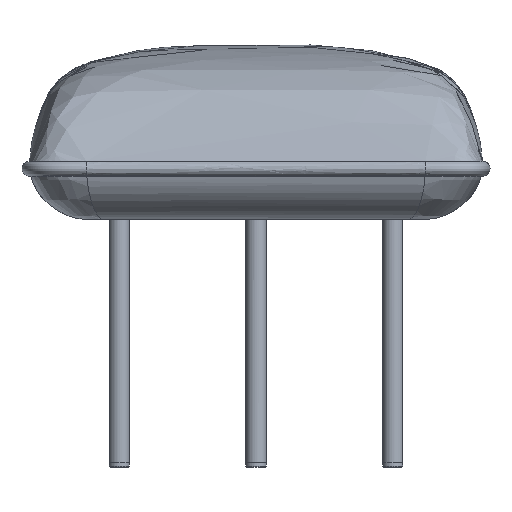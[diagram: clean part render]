
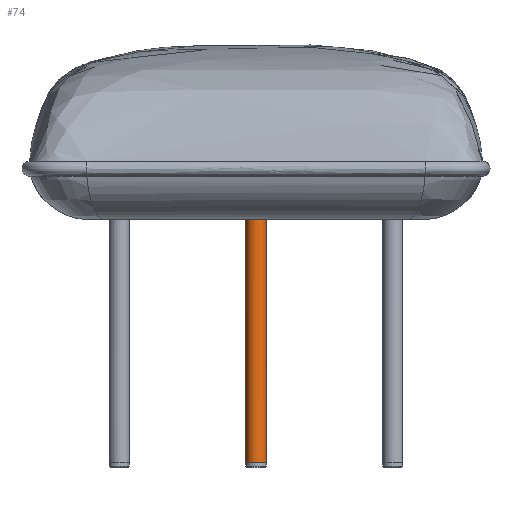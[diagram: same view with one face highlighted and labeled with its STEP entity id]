
A CAD part, left-side view. The second image highlights one B-rep face of the part: STEP entity #74.
In plain terms, the highlighted free-form (B-spline) face has degree [2, 1] with [5, 2] control points.
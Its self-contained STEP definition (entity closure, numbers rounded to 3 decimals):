
#74=ADVANCED_FACE('',(#158),#2180,.T.);
#158=FACE_OUTER_BOUND('',#242,.T.);
#242=EDGE_LOOP('',(#345,#346,#347,#348));
#345=ORIENTED_EDGE('',*,*,#1765,.F.);
#346=ORIENTED_EDGE('',*,*,#1768,.F.);
#347=ORIENTED_EDGE('',*,*,#1764,.F.);
#348=ORIENTED_EDGE('',*,*,#1767,.F.);
#653=B_SPLINE_CURVE_WITH_KNOTS('',1,(#2515,#2516),.UNSPECIFIED.,.F.,.F.,
(2,2),(57.,322.),.UNSPECIFIED.);
#655=B_SPLINE_CURVE_WITH_KNOTS('',1,(#2521,#2522),.UNSPECIFIED.,.F.,.F.,
(2,2),(-322.,-57.),.UNSPECIFIED.);
#657=B_SPLINE_CURVE_WITH_KNOTS('',1,(#2525,#2526),.UNSPECIFIED.,.F.,.F.,
(2,2),(-69.115,-34.558),.UNSPECIFIED.);
#658=B_SPLINE_CURVE_WITH_KNOTS('',1,(#2527,#2528),.UNSPECIFIED.,.F.,.F.,
(2,2),(-322.,-57.),.UNSPECIFIED.);
#659=B_SPLINE_CURVE_WITH_KNOTS('',1,(#2529,#2530),.UNSPECIFIED.,.F.,.F.,
(2,2),(34.558,69.115),.UNSPECIFIED.);
#660=B_SPLINE_CURVE_WITH_KNOTS('',1,(#2531,#2532),.UNSPECIFIED.,.F.,.F.,
(2,2),(57.,322.),.UNSPECIFIED.);
#974=PCURVE('',#2231,#1294);
#975=PCURVE('',#2232,#1295);
#977=PCURVE('',#2179,#1297);
#979=PCURVE('',#2179,#1299);
#981=PCURVE('',#2180,#1301);
#982=PCURVE('',#2180,#1302);
#983=PCURVE('',#2180,#1303);
#984=PCURVE('',#2180,#1304);
#1294=DEFINITIONAL_REPRESENTATION('',(#1930),#13053);
#1295=DEFINITIONAL_REPRESENTATION('',(#1932),#13053);
#1297=DEFINITIONAL_REPRESENTATION('',(#653),#13053);
#1299=DEFINITIONAL_REPRESENTATION('',(#655),#13053);
#1301=DEFINITIONAL_REPRESENTATION('',(#657),#13053);
#1302=DEFINITIONAL_REPRESENTATION('',(#658),#13053);
#1303=DEFINITIONAL_REPRESENTATION('',(#659),#13053);
#1304=DEFINITIONAL_REPRESENTATION('',(#660),#13053);
#1604=SURFACE_CURVE('',#1929,(#974,#983),.PCURVE_S1.);
#1605=SURFACE_CURVE('',#1931,(#975,#981),.PCURVE_S1.);
#1607=SURFACE_CURVE('',#1935,(#977,#984),.PCURVE_S1.);
#1608=SURFACE_CURVE('',#1936,(#979,#982),.PCURVE_S1.);
#1764=EDGE_CURVE('',#2086,#2083,#1604,.T.);
#1765=EDGE_CURVE('',#2084,#2085,#1605,.T.);
#1767=EDGE_CURVE('',#2085,#2086,#1607,.T.);
#1768=EDGE_CURVE('',#2083,#2084,#1608,.T.);
#1929=(
BOUNDED_CURVE()
B_SPLINE_CURVE(2,(#2483,#2484,#2485,#2486,#2487),.UNSPECIFIED.,.F.,.F.)
B_SPLINE_CURVE_WITH_KNOTS((3,2,3),(34.558,51.836,69.115),
 .UNSPECIFIED.)
CURVE()
GEOMETRIC_REPRESENTATION_ITEM()
RATIONAL_B_SPLINE_CURVE((1.,0.707,1.,0.707,1.))
REPRESENTATION_ITEM('')
);
#1930=(
BOUNDED_CURVE()
B_SPLINE_CURVE(2,(#2488,#2489,#2490,#2491,#2492),.UNSPECIFIED.,.F.,.F.)
B_SPLINE_CURVE_WITH_KNOTS((3,2,3),(34.558,51.836,69.115),
 .UNSPECIFIED.)
CURVE()
GEOMETRIC_REPRESENTATION_ITEM()
RATIONAL_B_SPLINE_CURVE((1.,0.707,1.,0.707,1.))
REPRESENTATION_ITEM('')
);
#1931=(
BOUNDED_CURVE()
B_SPLINE_CURVE(2,(#2493,#2494,#2495,#2496,#2497),.UNSPECIFIED.,.F.,.F.)
B_SPLINE_CURVE_WITH_KNOTS((3,2,3),(-69.115,-51.836,
-34.558),.UNSPECIFIED.)
CURVE()
GEOMETRIC_REPRESENTATION_ITEM()
RATIONAL_B_SPLINE_CURVE((1.,0.707,1.,0.707,1.))
REPRESENTATION_ITEM('')
);
#1932=(
BOUNDED_CURVE()
B_SPLINE_CURVE(2,(#2498,#2499,#2500,#2501,#2502),.UNSPECIFIED.,.F.,.F.)
B_SPLINE_CURVE_WITH_KNOTS((3,2,3),(-69.115,-51.836,
-34.558),.UNSPECIFIED.)
CURVE()
GEOMETRIC_REPRESENTATION_ITEM()
RATIONAL_B_SPLINE_CURVE((1.,0.707,1.,0.707,1.))
REPRESENTATION_ITEM('')
);
#1935=(
BOUNDED_CURVE()
B_SPLINE_CURVE(1,(#2513,#2514),.UNSPECIFIED.,.F.,.F.)
B_SPLINE_CURVE_WITH_KNOTS((2,2),(57.,322.),.UNSPECIFIED.)
CURVE()
GEOMETRIC_REPRESENTATION_ITEM()
RATIONAL_B_SPLINE_CURVE((1.,1.))
REPRESENTATION_ITEM('')
);
#1936=(
BOUNDED_CURVE()
B_SPLINE_CURVE(1,(#2519,#2520),.UNSPECIFIED.,.F.,.F.)
B_SPLINE_CURVE_WITH_KNOTS((2,2),(-322.,-57.),.UNSPECIFIED.)
CURVE()
GEOMETRIC_REPRESENTATION_ITEM()
RATIONAL_B_SPLINE_CURVE((1.,1.))
REPRESENTATION_ITEM('')
);
#2083=VERTEX_POINT('',#2469);
#2084=VERTEX_POINT('',#2470);
#2085=VERTEX_POINT('',#2471);
#2086=VERTEX_POINT('',#2472);
#2179=(
BOUNDED_SURFACE()
B_SPLINE_SURFACE(2,1,((#2449,#2450),(#2451,#2452),(#2453,#2454),(#2455,
#2456),(#2457,#2458)),.UNSPECIFIED.,.F.,.F.,.F.)
B_SPLINE_SURFACE_WITH_KNOTS((3,2,3),(2,2),(0.,17.279,34.558),
(0.,327.),.UNSPECIFIED.)
GEOMETRIC_REPRESENTATION_ITEM()
RATIONAL_B_SPLINE_SURFACE(((1.,1.),(0.707,0.707),
(1.,1.),(0.707,0.707),(1.,1.)))
REPRESENTATION_ITEM('')
SURFACE()
);
#2180=(
BOUNDED_SURFACE()
B_SPLINE_SURFACE(2,1,((#2459,#2460),(#2461,#2462),(#2463,#2464),(#2465,
#2466),(#2467,#2468)),.UNSPECIFIED.,.F.,.F.,.F.)
B_SPLINE_SURFACE_WITH_KNOTS((3,2,3),(2,2),(34.558,51.836,
69.115),(0.,327.),.UNSPECIFIED.)
GEOMETRIC_REPRESENTATION_ITEM()
RATIONAL_B_SPLINE_SURFACE(((1.,1.),(0.707,0.707),
(1.,1.),(0.707,0.707),(1.,1.)))
REPRESENTATION_ITEM('')
SURFACE()
);
#2231=B_SPLINE_SURFACE_WITH_KNOTS('',1,1,((#2441,#2442),(#2443,#2444)),
 .UNSPECIFIED.,.F.,.F.,.F.,(2,2),(2,2),(-11.22,11.22),(-0.22,
22.22),.UNSPECIFIED.);
#2232=B_SPLINE_SURFACE_WITH_KNOTS('',1,1,((#2445,#2446),(#2447,#2448)),
 .UNSPECIFIED.,.F.,.F.,.F.,(2,2),(2,2),(-11.22,11.22),(-22.22,
0.22),.UNSPECIFIED.);
#2441=CARTESIAN_POINT('',(-11.22,11.22,5.));
#2442=CARTESIAN_POINT('',(-11.22,-11.22,5.));
#2443=CARTESIAN_POINT('',(11.22,11.22,5.));
#2444=CARTESIAN_POINT('',(11.22,-11.22,5.));
#2445=CARTESIAN_POINT('',(-11.22,-11.22,270.));
#2446=CARTESIAN_POINT('',(-11.22,11.22,270.));
#2447=CARTESIAN_POINT('',(11.22,-11.22,270.));
#2448=CARTESIAN_POINT('',(11.22,11.22,270.));
#2449=CARTESIAN_POINT('',(0.,11.,327.));
#2450=CARTESIAN_POINT('',(0.,11.,0.));
#2451=CARTESIAN_POINT('',(11.,11.,327.));
#2452=CARTESIAN_POINT('',(11.,11.,0.));
#2453=CARTESIAN_POINT('',(11.,0.,327.));
#2454=CARTESIAN_POINT('',(11.,0.,0.));
#2455=CARTESIAN_POINT('',(11.,-11.,327.));
#2456=CARTESIAN_POINT('',(11.,-11.,0.));
#2457=CARTESIAN_POINT('',(0.,-11.,327.));
#2458=CARTESIAN_POINT('',(0.,-11.,0.));
#2459=CARTESIAN_POINT('',(0.,-11.,327.));
#2460=CARTESIAN_POINT('',(0.,-11.,0.));
#2461=CARTESIAN_POINT('',(-11.,-11.,327.));
#2462=CARTESIAN_POINT('',(-11.,-11.,0.));
#2463=CARTESIAN_POINT('',(-11.,0.,327.));
#2464=CARTESIAN_POINT('',(-11.,0.,0.));
#2465=CARTESIAN_POINT('',(-11.,11.,327.));
#2466=CARTESIAN_POINT('',(-11.,11.,0.));
#2467=CARTESIAN_POINT('',(0.,11.,327.));
#2468=CARTESIAN_POINT('',(0.,11.,0.));
#2469=CARTESIAN_POINT('',(0.,11.,5.));
#2470=CARTESIAN_POINT('',(0.,11.,270.));
#2471=CARTESIAN_POINT('',(0.,-11.,270.));
#2472=CARTESIAN_POINT('',(0.,-11.,5.));
#2483=CARTESIAN_POINT('',(0.,-11.,5.));
#2484=CARTESIAN_POINT('',(-11.,-11.,5.));
#2485=CARTESIAN_POINT('',(-11.,0.,5.));
#2486=CARTESIAN_POINT('',(-11.,11.,5.));
#2487=CARTESIAN_POINT('',(0.,11.,5.));
#2488=CARTESIAN_POINT('',(0.,22.));
#2489=CARTESIAN_POINT('',(-11.,22.));
#2490=CARTESIAN_POINT('',(-11.,11.));
#2491=CARTESIAN_POINT('',(-11.,0.));
#2492=CARTESIAN_POINT('',(0.,0.));
#2493=CARTESIAN_POINT('',(0.,11.,270.));
#2494=CARTESIAN_POINT('',(-11.,11.,270.));
#2495=CARTESIAN_POINT('',(-11.,0.,270.));
#2496=CARTESIAN_POINT('',(-11.,-11.,270.));
#2497=CARTESIAN_POINT('',(0.,-11.,270.));
#2498=CARTESIAN_POINT('',(0.,0.));
#2499=CARTESIAN_POINT('',(-11.,0.));
#2500=CARTESIAN_POINT('',(-11.,-11.));
#2501=CARTESIAN_POINT('',(-11.,-22.));
#2502=CARTESIAN_POINT('',(0.,-22.));
#2513=CARTESIAN_POINT('',(0.,-11.,270.));
#2514=CARTESIAN_POINT('',(0.,-11.,5.));
#2515=CARTESIAN_POINT('',(34.558,57.));
#2516=CARTESIAN_POINT('',(34.558,322.));
#2519=CARTESIAN_POINT('',(0.,11.,5.));
#2520=CARTESIAN_POINT('',(0.,11.,270.));
#2521=CARTESIAN_POINT('',(0.,322.));
#2522=CARTESIAN_POINT('',(0.,57.));
#2525=CARTESIAN_POINT('',(69.115,57.));
#2526=CARTESIAN_POINT('',(34.558,57.));
#2527=CARTESIAN_POINT('',(69.115,322.));
#2528=CARTESIAN_POINT('',(69.115,57.));
#2529=CARTESIAN_POINT('',(34.558,322.));
#2530=CARTESIAN_POINT('',(69.115,322.));
#2531=CARTESIAN_POINT('',(34.558,57.));
#2532=CARTESIAN_POINT('',(34.558,322.));
#13053=(
GEOMETRIC_REPRESENTATION_CONTEXT(2)
PARAMETRIC_REPRESENTATION_CONTEXT()
REPRESENTATION_CONTEXT('pspace','')
);
